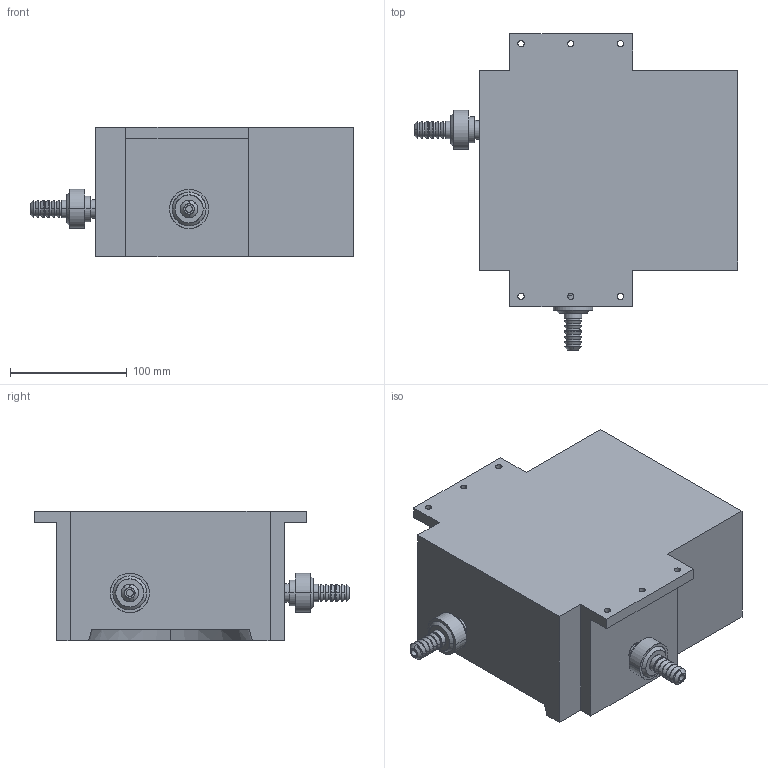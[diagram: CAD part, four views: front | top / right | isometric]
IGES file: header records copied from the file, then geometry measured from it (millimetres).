
Start section: SolidWorks IGES file using analytic representation for surfaces
Global section: file name: G:\EGK\USER\Sabine Krause\Public Group\meine_PDF\LPV415_TD_00000__001.IGS; native system: SolidWorks 2012; preprocessor: SolidWorks 2012; author: skrause; date: 131125.145844; units: millimetre
Bounding box: 277 x 270.2 x 111 mm (x, y, z)
Surface area: 204146.2 mm2 (no closed solid volume)
Topology: 0 solids, 0 shells, 159 faces, 2958 edges, 2958 vertices
Faces by surface type: revolution 108, bspline 51
